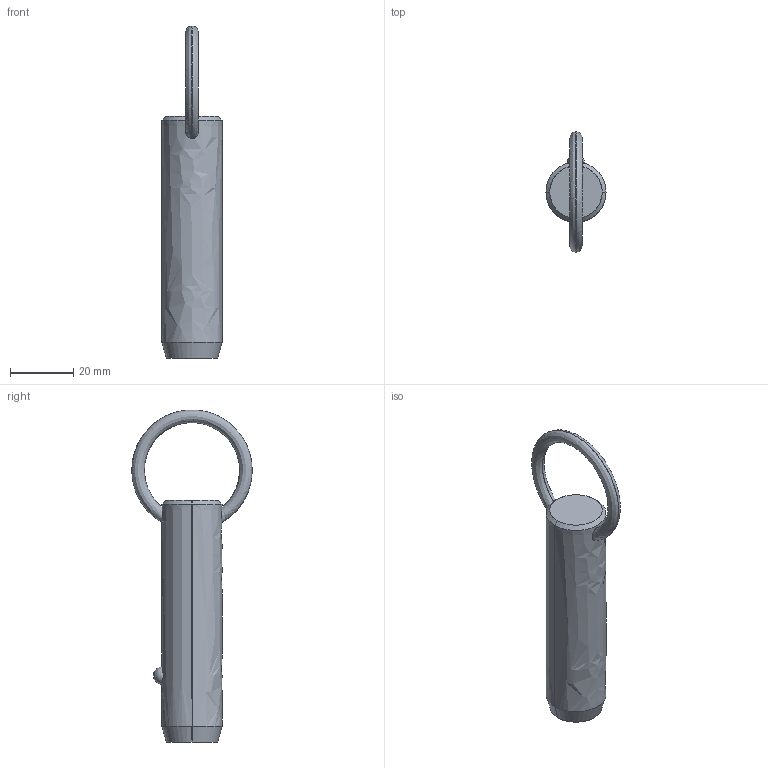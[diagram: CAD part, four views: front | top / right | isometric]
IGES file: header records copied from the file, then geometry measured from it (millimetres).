
Start section: SolidWorks IGES file using analytic representation for surfaces
Global section: file name: C:\Users\liam_\OneDrive\Documents\WORK\Work for WixRoyd\Job Files\J-00019 - Matt Davis CAD Checking\04. CAD Drawings\automotion20190605\P1250.2_v2\P1250.2_v2_20190729_IGES\P1250.075-170.igs; native system: SolidWorks 2017; preprocessor: SolidWorks 2017; author: liam_; date: 190729.234818; units: millimetre
Bounding box: 19 x 38.09 x 104.99 mm (x, y, z)
Surface area: 6093.1 mm2 (no closed solid volume)
Topology: 0 solids, 0 shells, 12 faces, 294 edges, 292 vertices
Faces by surface type: revolution 8, bspline 4
